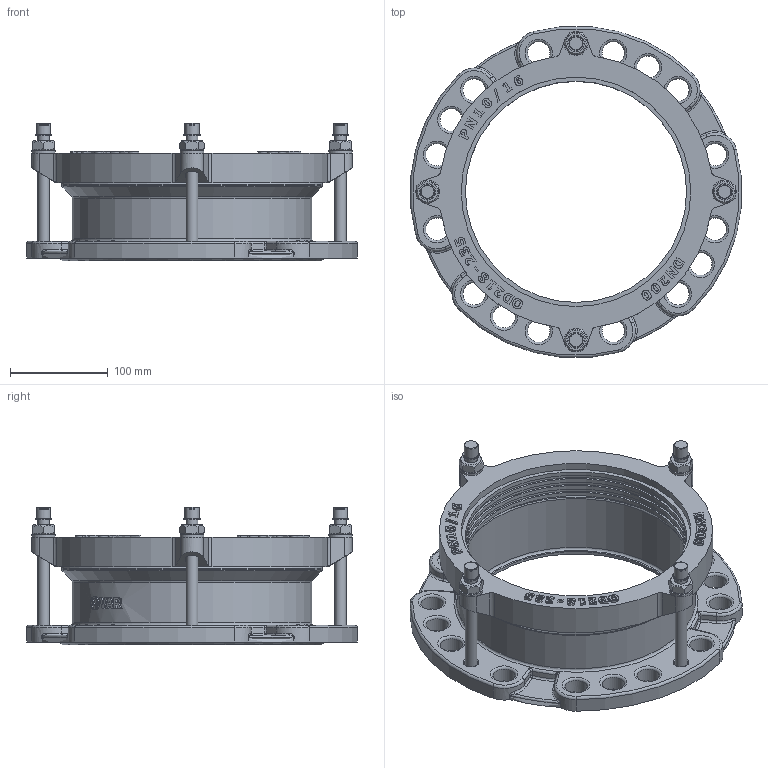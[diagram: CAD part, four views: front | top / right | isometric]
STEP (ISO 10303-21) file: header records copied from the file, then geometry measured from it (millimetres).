
FILE_DESCRIPTION(('STEP AP203'), '1');
FILE_NAME('Ôëàíöåâûé àäàïòåð', '', ('UNSPECIFIED'), ('UNSPECIFIED'), 'C3D Converter', 'C3D Toolkit', '');
FILE_SCHEMA(('CONFIG_CONTROL_DESIGN'));
Length unit declared in the file: millimetre
Assembly tree (19 placements, depth 2):
  (unnamed)
    (unnamed)
    (unnamed)  x4
    (unnamed)  x4
    (unnamed)  x4
    (unnamed)  x4
    (unnamed)
    (unnamed)
Bounding box: 338.71 x 338.71 x 141.2 mm (x, y, z)
Volume: 1688186.6 mm3; surface area: 465151.5 mm2
Topology: 19 solids, 19 shells, 1067 faces, 2716 edges, 1688 vertices
Faces by surface type: extrusion 358, plane 332, cylinder 210, torus 79, cone 32, bspline 32, sphere 24
Full cylindrical faces by diameter (mm): 12 x12, 13 x4, 13.478 x1, 14 x8, 14.4 x4, 16.8 x4, 23 x16, 24 x4, 226.5 x5, 230.75 x3, 235 x2, 240 x1, 245 x2, 267.5 x1, 270 x2
Entity records: 41195 total; most frequent: CARTESIAN_POINT 14903, ORIENTED_EDGE 4666, DIRECTION 3519, EDGE_CURVE 2333, VERTEX_POINT 1531, VECTOR 1343, B_SPLINE_CURVE_WITH_KNOTS 1168, EDGE_LOOP 1151
